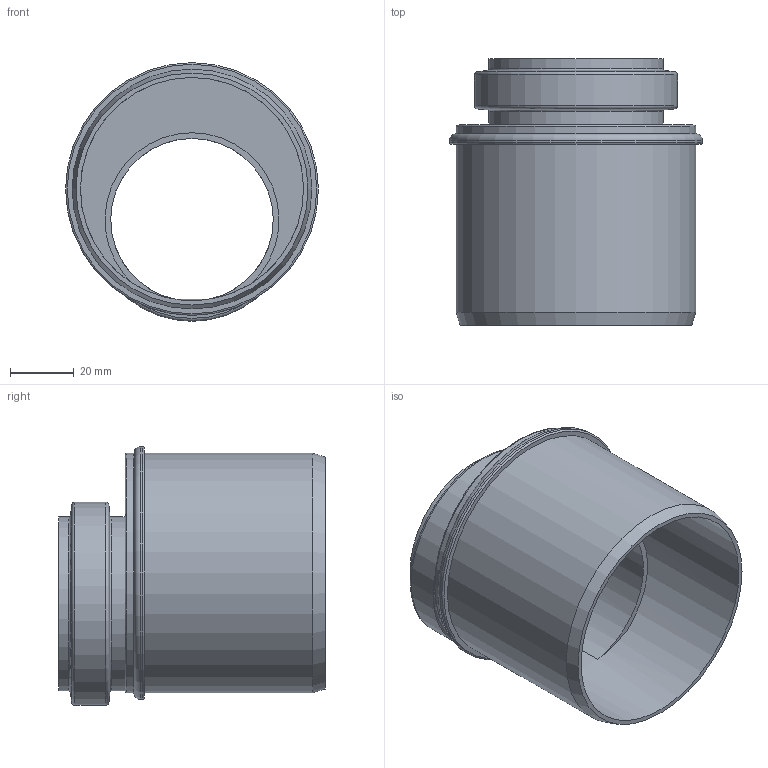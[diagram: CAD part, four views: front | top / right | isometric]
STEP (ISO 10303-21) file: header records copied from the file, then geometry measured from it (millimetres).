
FILE_DESCRIPTION(/* description */ (''),/* implementation_level */ '2;1');
FILE_NAME(/* name */ 'Z:\Geberit\Export\Export15\Reduktion PP-MD_Ipart\stp\390373.stp',/* time_stamp */ '2014-04-27T21:12:53+02:00',/* author */ ('Bründl'),/* organization */ (''),/* preprocessor_version */ 'ST-DEVELOPER v15.2',/* originating_system */ 'Autodesk Inventor 2014',/* authorisation */ '');
FILE_SCHEMA (('AUTOMOTIVE_DESIGN { 1 0 10303 214 3 1 1 }'));
Length unit declared in the file: millimetre
Products named in the file (1): 390373
Bounding box: 79.29 x 83.6 x 81.14 mm (x, y, z)
Volume: 64325.4 mm3; surface area: 49642.7 mm2
Topology: 1 solids, 1 shells, 35 faces, 71 edges, 41 vertices
Faces by surface type: torus 11, cylinder 11, plane 8, cone 5
Full cylindrical faces by diameter (mm): 51 x2, 54.6 x2, 60.1 x1, 63.7 x1, 70 x1, 75.2 x2, 79.29 x1
Entity records: 814 total; most frequent: DIRECTION 152, CARTESIAN_POINT 116, ORIENTED_EDGE 84, AXIS2_PLACEMENT_3D 74, EDGE_LOOP 66, EDGE_CURVE 42, CIRCLE 38, VERTEX_POINT 38
